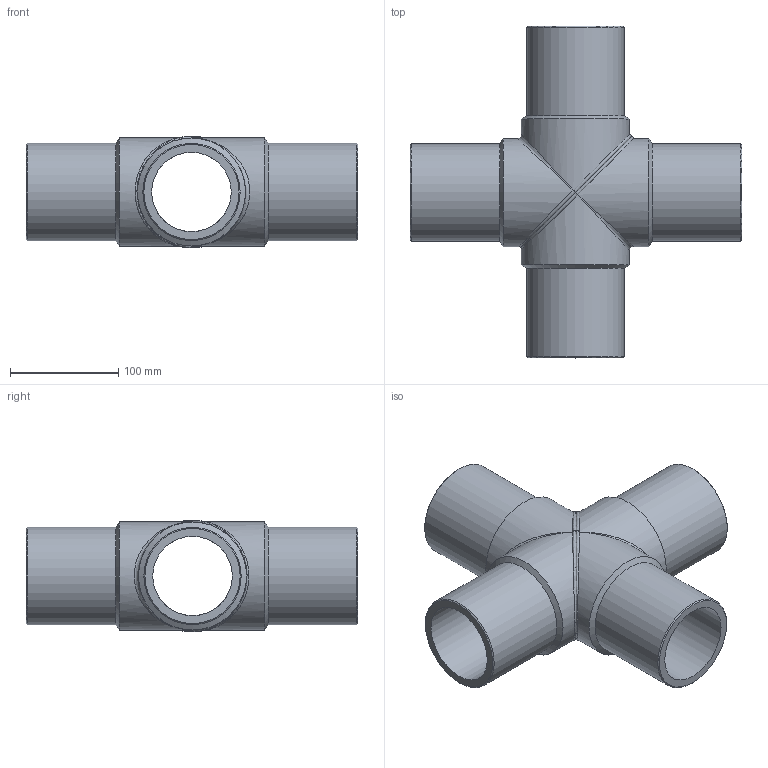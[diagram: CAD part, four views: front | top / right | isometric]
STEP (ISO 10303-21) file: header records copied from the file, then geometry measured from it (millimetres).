
FILE_DESCRIPTION(/* description */ ('Unknown'),/* implementation_level */ '2;1');
FILE_NAME(/* name */ 'CRP090C',/* time_stamp */ '2022-07-07T17:01:49+02:00',/* author */ ('Unknown'),/* organization */ ('Unknown'),/* preprocessor_version */ 'ST-DEVELOPER v18.102',/* originating_system */ 'Solid Edge',/* authorisation */ 'Unknown');
FILE_SCHEMA (('AUTOMOTIVE_DESIGN {1 0 10303 214 3 1 1}'));
Length unit declared in the file: millimetre
Products named in the file (3): CRP090C; TP090C; TP090C_mir
Assembly tree (2 placements, depth 2):
  CRP090C
    TP090C
    TP090C_mir
Bounding box: 307 x 307 x 102.99 mm (x, y, z)
Volume: 1306183.3 mm3; surface area: 284520.5 mm2
Topology: 2 solids, 2 shells, 34 faces, 96 edges, 64 vertices
Faces by surface type: cylinder 12, bspline 8, cone 8, plane 6
Full cylindrical faces by diameter (mm): 73.6 x4, 90 x4, 100 x4
Entity records: 3353 total; most frequent: CARTESIAN_POINT 2585, ORIENTED_EDGE 132, DIRECTION 130, EDGE_CURVE 66, AXIS2_PLACEMENT_3D 65, EDGE_LOOP 60, FACE_BOUND 60, VERTEX_POINT 54
